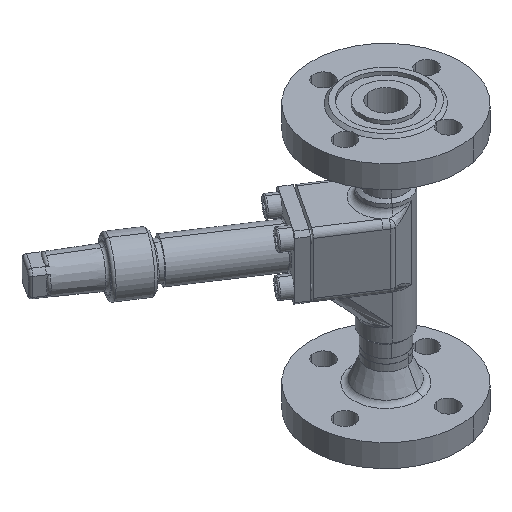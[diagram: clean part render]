
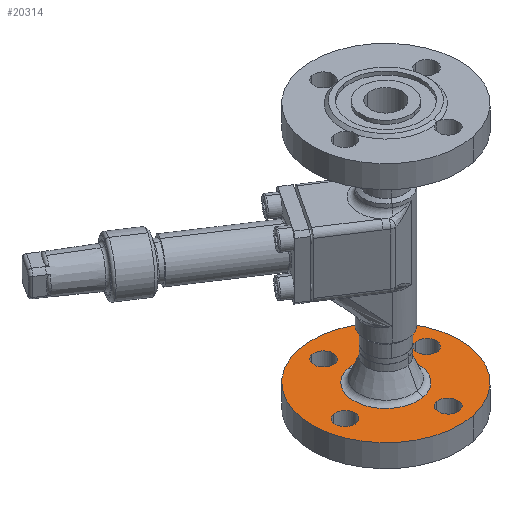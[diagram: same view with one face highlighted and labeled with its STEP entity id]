
A CAD part, isometric view. The second image highlights one B-rep face of the part: STEP entity #20314.
In plain terms, the highlighted planar face has unit normal (0, 0, 1) as drawn and (0, 1, 0) by its records, which use the part's own axes.
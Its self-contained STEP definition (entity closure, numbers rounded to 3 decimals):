
#16520 = CARTESIAN_POINT ( 'NONE',  ( -52.5, 18., 0. ) ) ;
#187 = CARTESIAN_POINT ( 'NONE',  ( -30.5, 18., 0. ) ) ;
#274 = CIRCLE ( 'NONE', #275, 7. ) ;
#275 = AXIS2_PLACEMENT_3D ( 'NONE', #276, #277, #278 ) ;
#276 = CARTESIAN_POINT ( 'NONE',  ( 37.5, 18., 0. ) ) ;
#277 = DIRECTION ( 'NONE',  ( 0., 1., 0. ) ) ;
#278 = DIRECTION ( 'NONE',  ( -1., 0., 0. ) ) ;
#16704 = CIRCLE ( 'NONE', #16721, 52.5 ) ;
#16721 = AXIS2_PLACEMENT_3D ( 'NONE', #16722, #16723, #16724 ) ;
#16722 = CARTESIAN_POINT ( 'NONE',  ( 0., 18., 0. ) ) ;
#16723 = DIRECTION ( 'NONE',  ( 0., 1., 0. ) ) ;
#16724 = DIRECTION ( 'NONE',  ( -1., 0., 0. ) ) ;
#17141 = CARTESIAN_POINT ( 'NONE',  ( 7., 18., -37.5 ) ) ;
#797 = VERTEX_POINT ( 'NONE', #187 ) ;
#17279 = CARTESIAN_POINT ( 'NONE',  ( 30.5, 18., 0. ) ) ;
#17280 = CIRCLE ( 'NONE', #17281, 52.5 ) ;
#17281 = AXIS2_PLACEMENT_3D ( 'NONE', #17282, #17283, #17284 ) ;
#17282 = CARTESIAN_POINT ( 'NONE',  ( 0., 18., 0. ) ) ;
#17283 = DIRECTION ( 'NONE',  ( 0., 1., 0. ) ) ;
#17284 = DIRECTION ( 'NONE',  ( -1., 0., 0. ) ) ;
#924 = EDGE_CURVE ( 'NONE', #11494, #8584, #274, .T. ) ;
#17489 = FACE_BOUND ( 'NONE', #20070, .T. ) ;
#17490 = FACE_BOUND ( 'NONE', #3289, .T. ) ;
#17491 = FACE_BOUND ( 'NONE', #11859, .T. ) ;
#17510 = FACE_BOUND ( 'NONE', #2145, .T. ) ;
#17511 = FACE_BOUND ( 'NONE', #19721, .T. ) ;
#17512 = FACE_OUTER_BOUND ( 'NONE', #1922, .T. ) ;
#17513 = PLANE ( 'NONE',  #17514 ) ;
#17514 = AXIS2_PLACEMENT_3D ( 'NONE', #17515, #17516, #17517 ) ;
#17515 = CARTESIAN_POINT ( 'NONE',  ( 52.5, 18., 0. ) ) ;
#17516 = DIRECTION ( 'NONE',  ( 0., -1., 0. ) ) ;
#17517 = DIRECTION ( 'NONE',  ( 1., 0., 0. ) ) ;
#17658 = ORIENTED_EDGE ( 'NONE', *, *, #9571, .F. ) ;
#1688 = CARTESIAN_POINT ( 'NONE',  ( 44.5, 18., 0. ) ) ;
#18172 = VERTEX_POINT ( 'NONE', #14053 ) ;
#1865 = CIRCLE ( 'NONE', #1866, 7. ) ;
#1866 = AXIS2_PLACEMENT_3D ( 'NONE', #1867, #1868, #1869 ) ;
#1867 = CARTESIAN_POINT ( 'NONE',  ( -37.5, 18., 0. ) ) ;
#1868 = DIRECTION ( 'NONE',  ( 0., 1., 0. ) ) ;
#1869 = DIRECTION ( 'NONE',  ( 1., 0., 0. ) ) ;
#1922 = EDGE_LOOP ( 'NONE', ( #4856, #19069 ) ) ;
#18340 = EDGE_CURVE ( 'NONE', #13442, #3725, #14109, .T. ) ;
#2145 = EDGE_LOOP ( 'NONE', ( #10183, #9708 ) ) ;
#18583 = EDGE_CURVE ( 'NONE', #19945, #18172, #14236, .T. ) ;
#19069 = ORIENTED_EDGE ( 'NONE', *, *, #8601, .T. ) ;
#2807 = ORIENTED_EDGE ( 'NONE', *, *, #5555, .F. ) ;
#3184 = ORIENTED_EDGE ( 'NONE', *, *, #14659, .F. ) ;
#3289 = EDGE_LOOP ( 'NONE', ( #2807, #12105 ) ) ;
#19721 = EDGE_LOOP ( 'NONE', ( #3184, #3546 ) ) ;
#3346 = VERTEX_POINT ( 'NONE', #5586 ) ;
#3546 = ORIENTED_EDGE ( 'NONE', *, *, #4019, .F. ) ;
#19945 = VERTEX_POINT ( 'NONE', #17141 ) ;
#20070 = EDGE_LOOP ( 'NONE', ( #4799, #11747 ) ) ;
#3725 = VERTEX_POINT ( 'NONE', #5845 ) ;
#3831 = VERTEX_POINT ( 'NONE', #6127 ) ;
#20314 = ADVANCED_FACE ( 'NONE', ( #17489, #17490, #17491, #17510, #17511, #17512 ), #17513, .F. ) ;
#4019 = EDGE_CURVE ( 'NONE', #6035, #3831, #6238, .T. ) ;
#4494 = EDGE_CURVE ( 'NONE', #18172, #19945, #6586, .T. ) ;
#4799 = ORIENTED_EDGE ( 'NONE', *, *, #4494, .F. ) ;
#4856 = ORIENTED_EDGE ( 'NONE', *, *, #8272, .T. ) ;
#5555 = EDGE_CURVE ( 'NONE', #7415, #797, #9797, .T. ) ;
#5586 = CARTESIAN_POINT ( 'NONE',  ( 52.5, 18., 0. ) ) ;
#5678 = CIRCLE ( 'NONE', #5679, 7. ) ;
#5679 = AXIS2_PLACEMENT_3D ( 'NONE', #5680, #5681, #5682 ) ;
#5680 = CARTESIAN_POINT ( 'NONE',  ( 37.5, 18., 0. ) ) ;
#5681 = DIRECTION ( 'NONE',  ( 0., 1., 0. ) ) ;
#5682 = DIRECTION ( 'NONE',  ( -1., 0., 0. ) ) ;
#5845 = CARTESIAN_POINT ( 'NONE',  ( -7., 18., 37.5 ) ) ;
#6035 = VERTEX_POINT ( 'NONE', #12228 ) ;
#6127 = CARTESIAN_POINT ( 'NONE',  ( -22.685, 18., 0. ) ) ;
#6220 = CARTESIAN_POINT ( 'NONE',  ( 7., 18., 37.5 ) ) ;
#6238 = CIRCLE ( 'NONE', #6239, 22.685 ) ;
#6239 = AXIS2_PLACEMENT_3D ( 'NONE', #6240, #6241, #6242 ) ;
#6240 = CARTESIAN_POINT ( 'NONE',  ( 0., 18., 0. ) ) ;
#6241 = DIRECTION ( 'NONE',  ( 0., 1., 0. ) ) ;
#6242 = DIRECTION ( 'NONE',  ( -1., 0., 0. ) ) ;
#6586 = CIRCLE ( 'NONE', #6587, 7. ) ;
#6587 = AXIS2_PLACEMENT_3D ( 'NONE', #6588, #6589, #6590 ) ;
#6588 = CARTESIAN_POINT ( 'NONE',  ( 0., 18., -37.5 ) ) ;
#6589 = DIRECTION ( 'NONE',  ( 0., 1., 0. ) ) ;
#6590 = DIRECTION ( 'NONE',  ( 0., 0., 1. ) ) ;
#7415 = VERTEX_POINT ( 'NONE', #14129 ) ;
#8052 = VERTEX_POINT ( 'NONE', #16520 ) ;
#8272 = EDGE_CURVE ( 'NONE', #8052, #3346, #16704, .T. ) ;
#8344 = CIRCLE ( 'NONE', #8345, 22.685 ) ;
#8345 = AXIS2_PLACEMENT_3D ( 'NONE', #8346, #8349, #8350 ) ;
#8346 = CARTESIAN_POINT ( 'NONE',  ( 0., 18., 0. ) ) ;
#8349 = DIRECTION ( 'NONE',  ( 0., 1., 0. ) ) ;
#8350 = DIRECTION ( 'NONE',  ( -1., 0., 0. ) ) ;
#8584 = VERTEX_POINT ( 'NONE', #17279 ) ;
#8601 = EDGE_CURVE ( 'NONE', #3346, #8052, #17280, .T. ) ;
#9571 = EDGE_CURVE ( 'NONE', #3725, #13442, #15342, .T. ) ;
#9708 = ORIENTED_EDGE ( 'NONE', *, *, #924, .F. ) ;
#9797 = CIRCLE ( 'NONE', #9798, 7. ) ;
#9798 = AXIS2_PLACEMENT_3D ( 'NONE', #9799, #9800, #9804 ) ;
#9799 = CARTESIAN_POINT ( 'NONE',  ( -37.5, 18., 0. ) ) ;
#9800 = DIRECTION ( 'NONE',  ( 0., 1., 0. ) ) ;
#9804 = DIRECTION ( 'NONE',  ( 1., 0., 0. ) ) ;
#10183 = ORIENTED_EDGE ( 'NONE', *, *, #12987, .F. ) ;
#11494 = VERTEX_POINT ( 'NONE', #1688 ) ;
#11747 = ORIENTED_EDGE ( 'NONE', *, *, #18583, .F. ) ;
#11751 = EDGE_CURVE ( 'NONE', #797, #7415, #1865, .T. ) ;
#11859 = EDGE_LOOP ( 'NONE', ( #17658, #14529 ) ) ;
#12105 = ORIENTED_EDGE ( 'NONE', *, *, #11751, .F. ) ;
#12228 = CARTESIAN_POINT ( 'NONE',  ( 22.685, 18., 0. ) ) ;
#12987 = EDGE_CURVE ( 'NONE', #8584, #11494, #5678, .T. ) ;
#13442 = VERTEX_POINT ( 'NONE', #6220 ) ;
#14053 = CARTESIAN_POINT ( 'NONE',  ( -7., 18., -37.5 ) ) ;
#14109 = CIRCLE ( 'NONE', #14110, 7. ) ;
#14110 = AXIS2_PLACEMENT_3D ( 'NONE', #14111, #14112, #14113 ) ;
#14111 = CARTESIAN_POINT ( 'NONE',  ( 0., 18., 37.5 ) ) ;
#14112 = DIRECTION ( 'NONE',  ( 0., 1., 0. ) ) ;
#14113 = DIRECTION ( 'NONE',  ( 0., 0., -1. ) ) ;
#14129 = CARTESIAN_POINT ( 'NONE',  ( -44.5, 18., 0. ) ) ;
#14236 = CIRCLE ( 'NONE', #14237, 7. ) ;
#14237 = AXIS2_PLACEMENT_3D ( 'NONE', #14238, #14239, #14240 ) ;
#14238 = CARTESIAN_POINT ( 'NONE',  ( 0., 18., -37.5 ) ) ;
#14239 = DIRECTION ( 'NONE',  ( 0., 1., 0. ) ) ;
#14240 = DIRECTION ( 'NONE',  ( 0., 0., 1. ) ) ;
#14529 = ORIENTED_EDGE ( 'NONE', *, *, #18340, .F. ) ;
#14659 = EDGE_CURVE ( 'NONE', #3831, #6035, #8344, .T. ) ;
#15342 = CIRCLE ( 'NONE', #15343, 7. ) ;
#15343 = AXIS2_PLACEMENT_3D ( 'NONE', #15344, #15345, #15346 ) ;
#15344 = CARTESIAN_POINT ( 'NONE',  ( 0., 18., 37.5 ) ) ;
#15345 = DIRECTION ( 'NONE',  ( 0., 1., 0. ) ) ;
#15346 = DIRECTION ( 'NONE',  ( 0., 0., -1. ) ) ;
